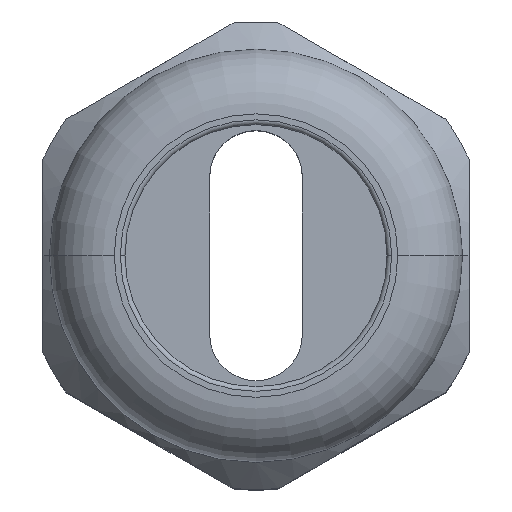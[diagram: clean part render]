
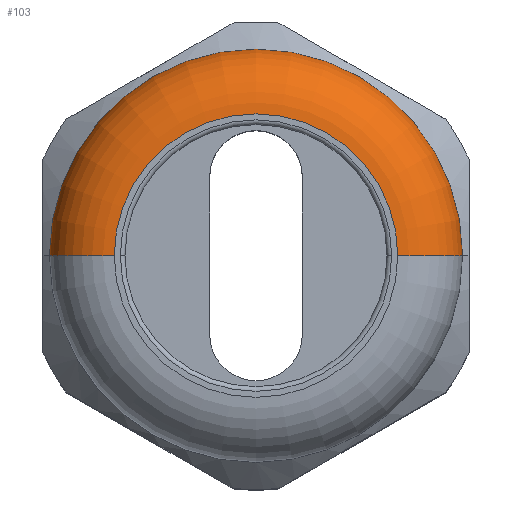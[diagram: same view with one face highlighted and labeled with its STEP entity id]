
A CAD part, top view. The second image highlights one B-rep face of the part: STEP entity #103.
In plain terms, the highlighted toroidal (fillet/blend) face has major radius 15.3 mm and minor radius 7 mm.
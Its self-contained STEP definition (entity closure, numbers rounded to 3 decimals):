
#78 = ORIENTED_EDGE ( 'NONE', *, *, #113, .T. ) ;
#80 = EDGE_CURVE ( 'NONE', #90, #91, #1202, .T. ) ;
#90 = VERTEX_POINT ( 'NONE', #1229 ) ;
#91 = VERTEX_POINT ( 'NONE', #1228 ) ;
#103 = ADVANCED_FACE ( 'NONE', ( #1255 ), #1254, .T. ) ;
#104 = EDGE_LOOP ( 'NONE', ( #78, #111, #137, #125 ) ) ;
#109 = VERTEX_POINT ( 'NONE', #1304 ) ;
#111 = ORIENTED_EDGE ( 'NONE', *, *, #120, .T. ) ;
#112 = VERTEX_POINT ( 'NONE', #1302 ) ;
#113 = EDGE_CURVE ( 'NONE', #112, #109, #1301, .T. ) ;
#120 = EDGE_CURVE ( 'NONE', #109, #91, #1339, .T. ) ;
#121 = EDGE_CURVE ( 'NONE', #112, #90, #1334, .T. ) ;
#125 = ORIENTED_EDGE ( 'NONE', *, *, #121, .F. ) ;
#137 = ORIENTED_EDGE ( 'NONE', *, *, #80, .F. ) ;
#1202 = CIRCLE ( 'NONE', #1245, 22.3 ) ;
#1228 = CARTESIAN_POINT ( 'NONE',  ( 22.3, 0., 44. ) ) ;
#1229 = CARTESIAN_POINT ( 'NONE',  ( -22.3, 0., 44. ) ) ;
#1242 = DIRECTION ( 'NONE',  ( -1., 0., 0. ) ) ;
#1243 = DIRECTION ( 'NONE',  ( 0., 0., -1. ) ) ;
#1244 = CARTESIAN_POINT ( 'NONE',  ( 0., 0., 44. ) ) ;
#1245 = AXIS2_PLACEMENT_3D ( 'NONE', #1244, #1243, #1242 ) ;
#1250 = DIRECTION ( 'NONE',  ( -1., 0., 0. ) ) ;
#1251 = DIRECTION ( 'NONE',  ( 0., 0., -1. ) ) ;
#1252 = CARTESIAN_POINT ( 'NONE',  ( 0., 0., 44. ) ) ;
#1253 = AXIS2_PLACEMENT_3D ( 'NONE', #1252, #1251, #1250 ) ;
#1254 = TOROIDAL_SURFACE ( 'NONE', #1253, 15.3, 7. ) ;
#1255 = FACE_OUTER_BOUND ( 'NONE', #104, .T. ) ;
#1297 = DIRECTION ( 'NONE',  ( -1., 0., 0. ) ) ;
#1298 = DIRECTION ( 'NONE',  ( 0., 0., -1. ) ) ;
#1299 = CARTESIAN_POINT ( 'NONE',  ( 0., 0., 51. ) ) ;
#1300 = AXIS2_PLACEMENT_3D ( 'NONE', #1299, #1298, #1297 ) ;
#1301 = CIRCLE ( 'NONE', #1300, 15.3 ) ;
#1302 = CARTESIAN_POINT ( 'NONE',  ( -15.3, 0., 51. ) ) ;
#1304 = CARTESIAN_POINT ( 'NONE',  ( 15.3, 0., 51. ) ) ;
#1330 = DIRECTION ( 'NONE',  ( 0., 0., -1. ) ) ;
#1331 = DIRECTION ( 'NONE',  ( 0., -1., 0. ) ) ;
#1332 = CARTESIAN_POINT ( 'NONE',  ( -15.3, 0., 44. ) ) ;
#1333 = AXIS2_PLACEMENT_3D ( 'NONE', #1332, #1331, #1330 ) ;
#1334 = CIRCLE ( 'NONE', #1333, 7. ) ;
#1335 = DIRECTION ( 'NONE',  ( -1., 0., 0. ) ) ;
#1336 = DIRECTION ( 'NONE',  ( 0., 1., 0. ) ) ;
#1337 = CARTESIAN_POINT ( 'NONE',  ( 15.3, 0., 44. ) ) ;
#1338 = AXIS2_PLACEMENT_3D ( 'NONE', #1337, #1336, #1335 ) ;
#1339 = CIRCLE ( 'NONE', #1338, 7. ) ;
